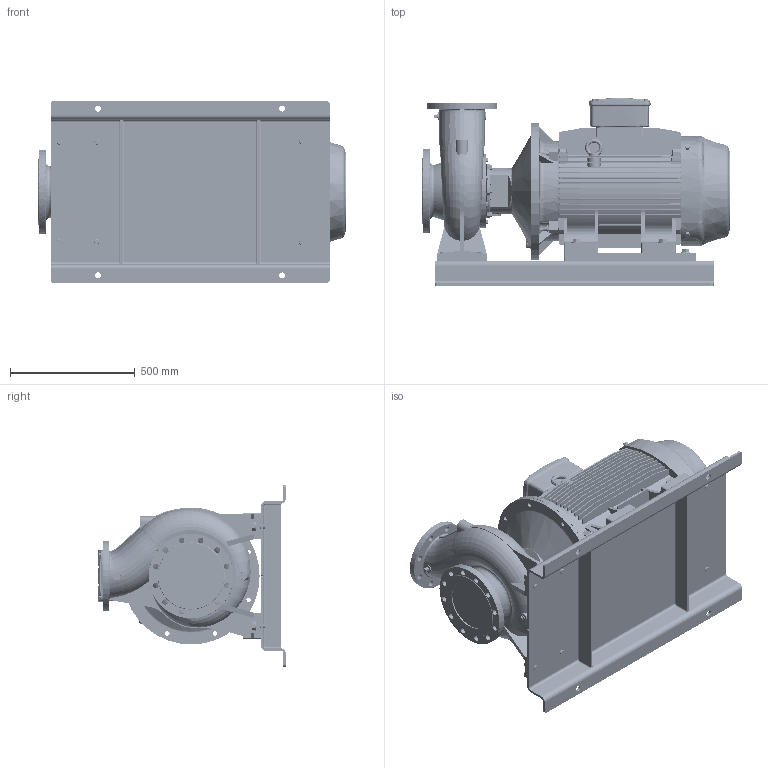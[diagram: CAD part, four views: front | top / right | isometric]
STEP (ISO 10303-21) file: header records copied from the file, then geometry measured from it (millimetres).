
FILE_DESCRIPTION (( 'STEP AP214' ), '1' );
FILE_NAME ('GSD2 150-200_55 & 75_(250SM)_W21_BP.STEP', '2024-07-30T06:49:31', ( '' ), ( '' ), 'SwSTEP 2.0', 'SolidWorks 2019', '' );
FILE_SCHEMA (( 'AUTOMOTIVE_DESIGN' ));
Length unit declared in the file: millimetre
Products named in the file (9): Parametric bolt_SFT-A407B; 150-200-250S_M_______; 250S_M2P IE3_W21T_B35; N9S4 GSDA-943 F1-1832975-00; 100x30 - CGSDA-5291; Parametric bolt_SFT-A403B; Parametric bolt_SFT-A417B; GSD2  150-200_55 & 75_(250SM)_W21_BP; Parametric Flat Washer_M20
Assembly tree (25 placements, depth 2):
  GSD2  150-200_55 & 75_(250SM)_W21_BP
    150-200-250S_M_______
    N9S4 GSDA-943 F1-1832975-00
    250S_M2P IE3_W21T_B35
    100x30 - CGSDA-5291  x2
    Parametric bolt_SFT-A417B  x4
    Parametric bolt_SFT-A407B  x2
    Parametric bolt_SFT-A403B  x4
    Parametric Flat Washer_M20  x10
Bounding box: 1235.5 x 753 x 730 mm (x, y, z)
Volume: 170927209.4 mm3; surface area: 8022776.5 mm2
Topology: 27 solids, 32 shells, 4175 faces, 10991 edges, 7006 vertices
Faces by surface type: plane 1649, cylinder 1439, cone 473, bspline 308, torus 290, sphere 16
Entity records: 186555 total; most frequent: CARTESIAN_POINT 99514, ORIENTED_EDGE 19078, DIRECTION 17246, EDGE_CURVE 9539, AXIS2_PLACEMENT_3D 6314, VERTEX_POINT 6069, LINE 4618, VECTOR 4618
